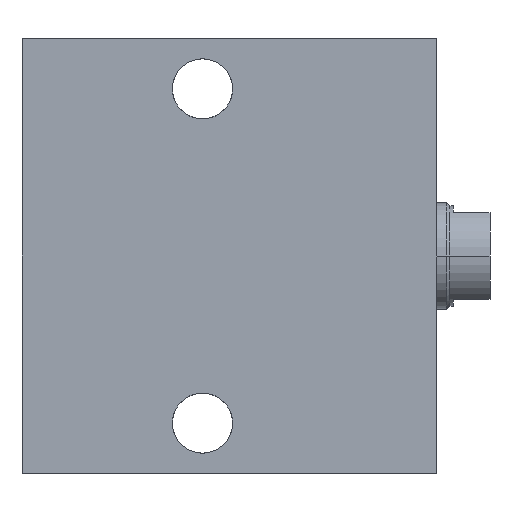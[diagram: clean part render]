
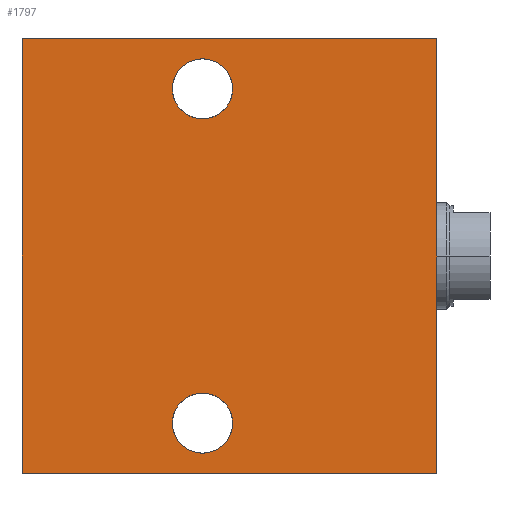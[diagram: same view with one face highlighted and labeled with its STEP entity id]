
A CAD part, front view. The second image highlights one B-rep face of the part: STEP entity #1797.
In plain terms, the highlighted planar face has unit normal (0, -1, 0).
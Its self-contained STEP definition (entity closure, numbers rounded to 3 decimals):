
#1=DIRECTION('',(0.,0.,1.));
#2=VECTOR('',#1,65.);
#3=CARTESIAN_POINT('',(-62.,-22.5,-32.5));
#4=LINE('',#3,#2);
#5=DIRECTION('',(1.,0.,0.));
#6=VECTOR('',#5,62.);
#7=CARTESIAN_POINT('',(-62.,-22.5,32.5));
#8=LINE('',#7,#6);
#9=DIRECTION('',(0.,0.,-1.));
#10=VECTOR('',#9,65.);
#11=CARTESIAN_POINT('',(0.,-22.5,32.5));
#12=LINE('',#11,#10);
#13=DIRECTION('',(-1.,0.,0.));
#14=VECTOR('',#13,62.);
#15=CARTESIAN_POINT('',(0.,-22.5,-32.5));
#16=LINE('',#15,#14);
#17=CARTESIAN_POINT('',(-35.,-22.5,-25.));
#18=DIRECTION('',(0.,-1.,0.));
#19=DIRECTION('',(1.,0.,0.));
#20=AXIS2_PLACEMENT_3D('',#17,#18,#19);
#22=CARTESIAN_POINT('',(-35.,-22.5,-25.));
#23=DIRECTION('',(0.,-1.,0.));
#24=DIRECTION('',(-1.,0.,0.));
#25=AXIS2_PLACEMENT_3D('',#22,#23,#24);
#27=CARTESIAN_POINT('',(-35.,-22.5,25.));
#28=DIRECTION('',(0.,1.,0.));
#29=DIRECTION('',(1.,0.,0.));
#30=AXIS2_PLACEMENT_3D('',#27,#28,#29);
#32=CARTESIAN_POINT('',(-35.,-22.5,25.));
#33=DIRECTION('',(0.,1.,0.));
#34=DIRECTION('',(-1.,0.,0.));
#35=AXIS2_PLACEMENT_3D('',#32,#33,#34);
#1418=CARTESIAN_POINT('',(-62.,-22.5,-32.5));
#1419=CARTESIAN_POINT('',(-62.,-22.5,32.5));
#1420=VERTEX_POINT('',#1418);
#1421=VERTEX_POINT('',#1419);
#1422=CARTESIAN_POINT('',(0.,-22.5,32.5));
#1423=VERTEX_POINT('',#1422);
#1424=CARTESIAN_POINT('',(0.,-22.5,-32.5));
#1425=VERTEX_POINT('',#1424);
#1434=CARTESIAN_POINT('',(-30.5,-22.5,-25.));
#1435=CARTESIAN_POINT('',(-39.5,-22.5,-25.));
#1436=VERTEX_POINT('',#1434);
#1437=VERTEX_POINT('',#1435);
#1442=CARTESIAN_POINT('',(-30.5,-22.5,25.));
#1443=CARTESIAN_POINT('',(-39.5,-22.5,25.));
#1444=VERTEX_POINT('',#1442);
#1445=VERTEX_POINT('',#1443);
#1770=CARTESIAN_POINT('',(0.,-22.5,0.));
#1771=DIRECTION('',(0.,1.,0.));
#1772=DIRECTION('',(1.,0.,0.));
#1773=AXIS2_PLACEMENT_3D('',#1770,#1771,#1772);
#1774=PLANE('',#1773);
#1776=ORIENTED_EDGE('',*,*,#1775,.T.);
#1778=ORIENTED_EDGE('',*,*,#1777,.T.);
#1780=ORIENTED_EDGE('',*,*,#1779,.T.);
#1782=ORIENTED_EDGE('',*,*,#1781,.T.);
#1783=EDGE_LOOP('',(#1776,#1778,#1780,#1782));
#1784=FACE_OUTER_BOUND('',#1783,.F.);
#1786=ORIENTED_EDGE('',*,*,#1785,.T.);
#1788=ORIENTED_EDGE('',*,*,#1787,.T.);
#1789=EDGE_LOOP('',(#1786,#1788));
#1790=FACE_BOUND('',#1789,.F.);
#1792=ORIENTED_EDGE('',*,*,#1791,.F.);
#1794=ORIENTED_EDGE('',*,*,#1793,.F.);
#1795=EDGE_LOOP('',(#1792,#1794));
#1796=FACE_BOUND('',#1795,.F.);
#1797=ADVANCED_FACE('',(#1784,#1790,#1796),#1774,.F.);
#21=CIRCLE('',#20,4.5);
#26=CIRCLE('',#25,4.5);
#31=CIRCLE('',#30,4.5);
#36=CIRCLE('',#35,4.5);
#1775=EDGE_CURVE('',#1420,#1421,#4,.T.);
#1777=EDGE_CURVE('',#1421,#1423,#8,.T.);
#1779=EDGE_CURVE('',#1423,#1425,#12,.T.);
#1781=EDGE_CURVE('',#1425,#1420,#16,.T.);
#1785=EDGE_CURVE('',#1436,#1437,#21,.T.);
#1787=EDGE_CURVE('',#1437,#1436,#26,.T.);
#1791=EDGE_CURVE('',#1444,#1445,#31,.T.);
#1793=EDGE_CURVE('',#1445,#1444,#36,.T.);
